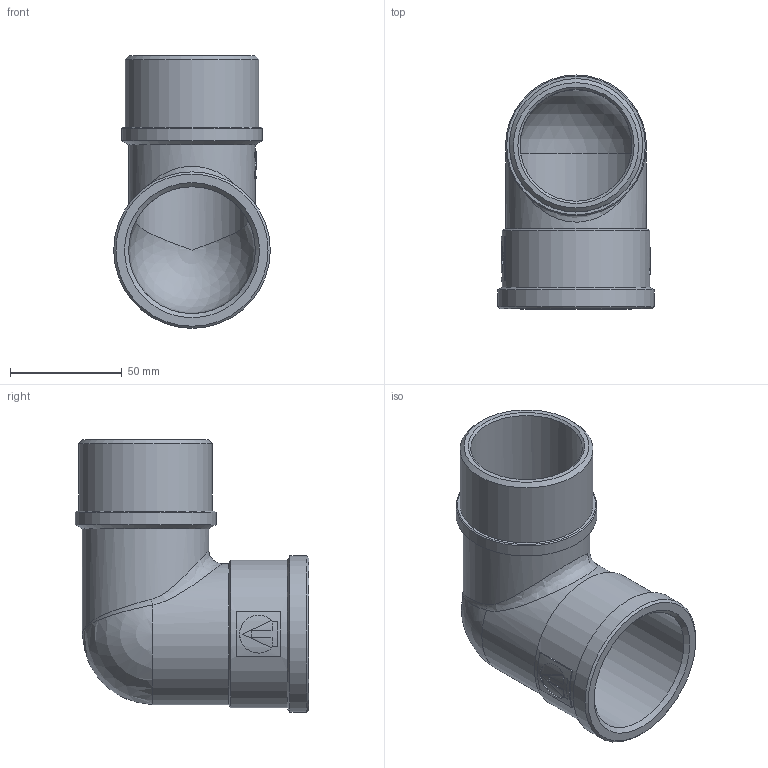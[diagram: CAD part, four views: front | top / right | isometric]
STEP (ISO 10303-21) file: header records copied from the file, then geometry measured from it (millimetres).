
FILE_DESCRIPTION(('STEP AP203'), '1');
FILE_NAME('ÂÐ.752218.007 - VTr.092.N.0009 - Ôèò. ðåçüá. óãîë', '2024-07-09T08:56:10', ('Boss'), (''), 'C3D Converter', 'C3D Toolkit', '');
FILE_SCHEMA(('CONFIG_CONTROL_DESIGN'));
Length unit declared in the file: millimetre
Products named in the file (1): ВР.752218.007
Bounding box: 70 x 104.5 x 122 mm (x, y, z)
Volume: 116036.1 mm3; surface area: 58848.9 mm2
Topology: 1 solids, 1 shells, 158 faces, 435 edges, 283 vertices
Faces by surface type: extrusion 78, plane 47, cylinder 20, cone 8, bspline 3, sphere 2
Full cylindrical faces by diameter (mm): 50 x1, 56.5 x1, 56.7 x1, 59.614 x1, 63 x2, 66 x1, 70 x1
Entity records: 9809 total; most frequent: CARTESIAN_POINT 6376, ORIENTED_EDGE 814, DIRECTION 455, EDGE_CURVE 407, VERTEX_POINT 279, B_SPLINE_CURVE_WITH_KNOTS 249, VECTOR 213, EDGE_LOOP 184
